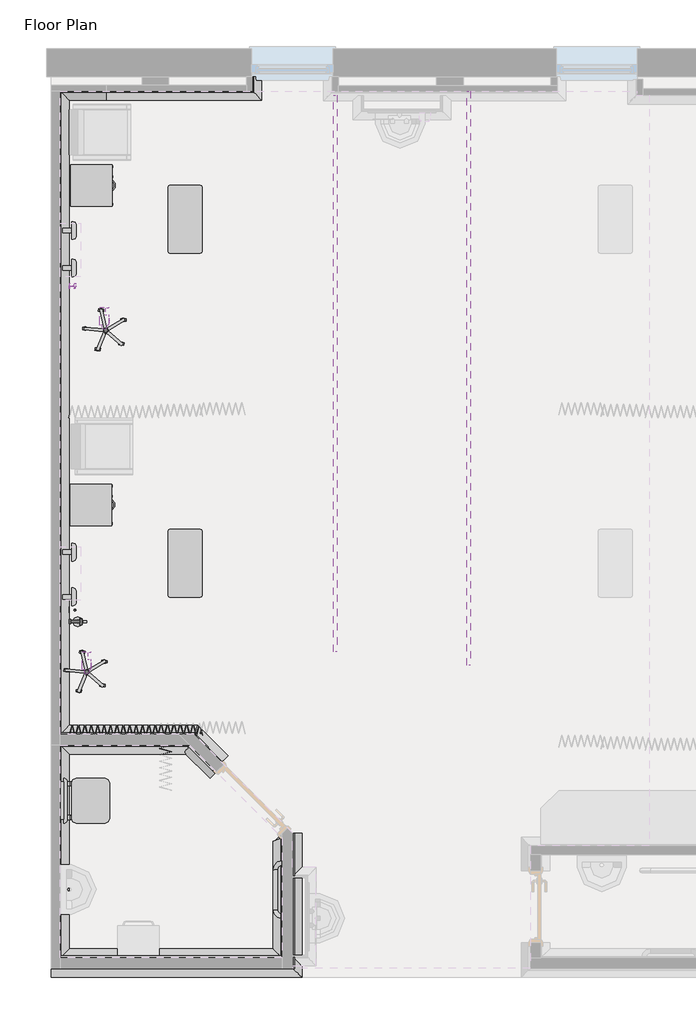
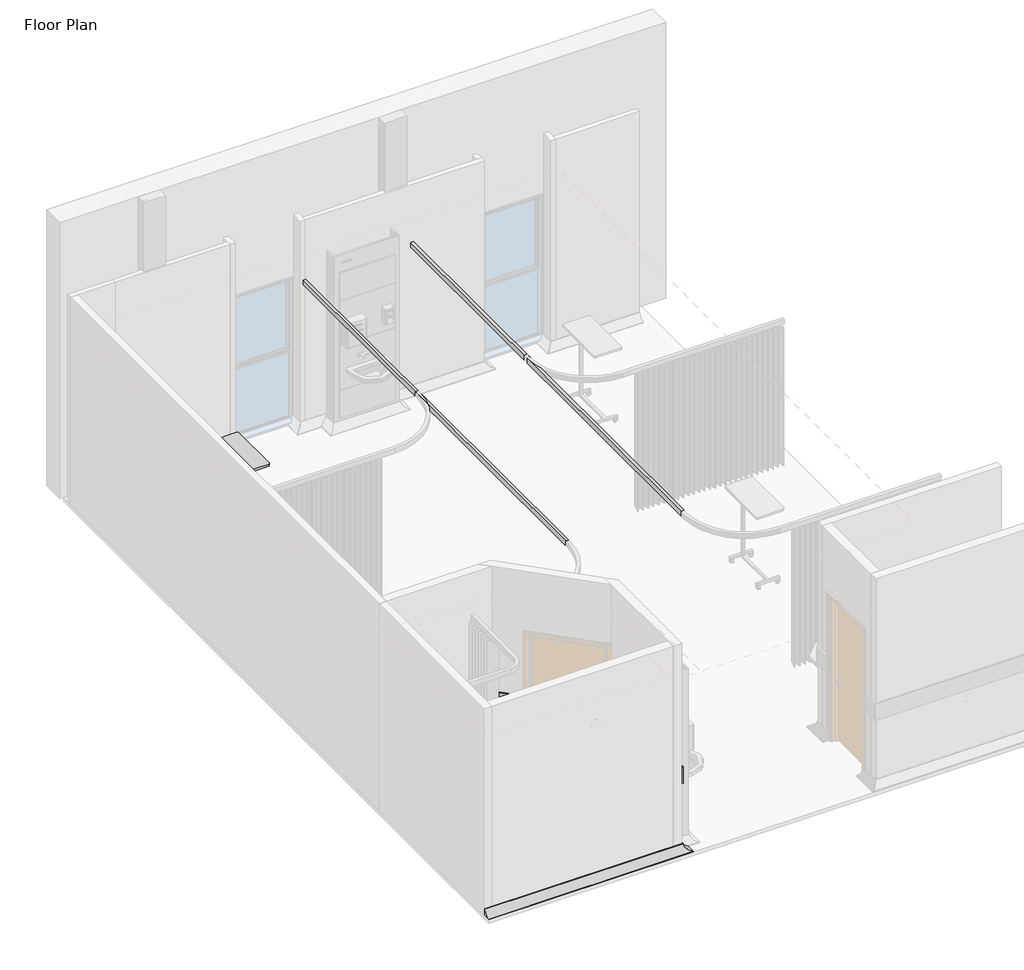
# One storey, part 2 of 3: 36 proxies.
"""IFC4 building model written with IfcOpenShell, lengths in millimetres."""

from ifc_helpers import new_model, si_unit, point, frame, frame_2d, origin, place, context, project, spatial, polyline, circle_curve, ellipse_curve, trimmed, segment, composite_curve, outline, extrude, transform, mapped, element, save
from ifc_brep_helpers import plane_surface, revolved_surface, advanced_brep
from components import generic_models_cb70edec, generic_models_7cb6bfe7, generic_models_b7986ebb, generic_models_e9c63149, generic_models_37f5f703, generic_models_4addcc0f, generic_models_2748bf89, generic_models_4dffa418, generic_models_d385bf97, type_1_5029713c, type_1_b87888fc

model = new_model("IFC4")

# Units and contexts
model_context = context("Model", 3, world=origin())
ifc_project = project(units=[si_unit("LENGTHUNIT", "METRE", prefix="MILLI")], contexts=[model_context])

# Site, building, storey
site = spatial("IfcSite", under=ifc_project)
building = spatial("IfcBuilding", under=site)
storey = spatial("IfcBuildingStorey", under=building, Name="Floor Plan", Elevation=0.0)

# Proxies
placement = place(None, origin())
element("IfcBuildingElementProxy", 1, Name="Wall Sweeps", at=placement, inside=storey, context=model_context, shape_type="AdvancedBrep", body=[
    advanced_brep(
    [(43998.7297081, -43.5704396, 0.0), (43998.7297081, -143.5704396, 0.0), (43998.7297081, -143.5704396, 10.0), (43998.7297081, -53.5704396, 100.0), (43998.7297081, -43.5704396, 100.0), (45637.9797081, -43.5704396, 0.0), (45637.9797081, -43.5704396, 100.0), (45647.9797081, -53.5704396, 100.0), (45737.9797081, -143.5704396, 10.0), (45737.9797081, -143.5704396, 0.0), (45569.4797081, -43.5704396, 0.0)],
    [
        (0, 1),
        (1, 2),
        (2, 3, circle_curve(frame((43998.7297081, -143.5704396, 100.0), z_axis=(1.0, 0.0, 0.0), x_axis=(0.0, -1.0, 0.0)), 90.0)),
        (3, 4),
        (4, 0),
        (5, 6),
        (6, 7),
        (7, 8, ellipse_curve(frame((45737.9797081, -143.5704396, 100.0), z_axis=(-0.7071067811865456, -0.7071067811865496, 0.0), x_axis=(0.7071067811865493, -0.7071067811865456, 0.0)), 127.2792206, 90.0)),
        (8, 9),
        (9, 5),
        (0, 10),
        (10, 5),
        (9, 1),
        (8, 2),
        (7, 3),
        (6, 4),
    ],
    [
        plane_surface(frame((43998.7297081, 261.2295604, 0.0), z_axis=(-1.0, 0.0, 0.0), x_axis=(0.0, 0.0, 1.0))),
        plane_surface(frame((45637.9797081, -43.5704396, -304.8), z_axis=(0.7071067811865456, 0.7071067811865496, 0.0), x_axis=(-0.7071067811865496, 0.7071067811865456, 0.0))),
        plane_surface(frame((43998.7297081, -43.5704396, 0.0), z_axis=(0.0, 0.0, -1.0), x_axis=(1.0, 0.0, 0.0))),
        plane_surface(frame((43998.7297081, -143.5704396, 0.0), z_axis=(0.0, -1.0, 0.0), x_axis=(1.0, 0.0, 0.0))),
        revolved_surface(polyline([(45827.979708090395, -233.5704396, 100.0), (43998.7297081, -233.5704396, 100.0)]), (43998.7297081, -143.5704396, 100.0), (1.0, 0.0, 0.0)),
        plane_surface(frame((43998.7297081, -53.5704396, 100.0), z_axis=(0.0, 0.0, 1.0), x_axis=(1.0, 0.0, 0.0))),
        plane_surface(frame((43998.7297081, -43.5704396, 100.0), z_axis=(0.0, 1.0, 0.0), x_axis=(1.0, 0.0, 0.0))),
    ],
    [
        (0, [[1, 2, 3, 4, 5]]),
        (1, [[6, 7, 8, 9, 10]]),
        (2, [[-1, 11, 12, -10, 13]]),
        (3, [[-2, -13, -9, 14]]),
        (4, [[-3, -14, -8, 15]]),
        (5, [[-4, -15, -7, 16]]),
        (6, [[-5, -16, -6, -12, -11]]),
    ],
),
])
element("IfcBuildingElementProxy", 2, Name="Wall Sweeps", at=placement, inside=storey, context=model_context, shape_type="AdvancedBrep", body=[
    advanced_brep(
    [(45637.9797081, 118.6795604, 0.0), (45637.9797081, 118.6795604, 100.0), (45647.9797081, 118.6795604, 100.0), (45737.9797081, 118.6795604, 10.0), (45737.9797081, 118.6795604, 0.0), (45637.9797081, -43.5704396, 0.0), (45737.9797081, -143.5704396, 0.0), (45737.9797081, -143.5704396, 10.0), (45647.9797081, -53.5704396, 100.0), (45637.9797081, -43.5704396, 100.0)],
    [
        (0, 1),
        (1, 2),
        (2, 3, circle_curve(frame((45737.9797081, 118.6795604, 100.0), z_axis=(0.0, -1.0, 0.0), x_axis=(1.0, 0.0, 0.0)), 90.0)),
        (3, 4),
        (4, 0),
        (5, 6),
        (6, 7),
        (7, 8, ellipse_curve(frame((45737.9797081, -143.5704396, 100.0), z_axis=(0.7071067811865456, 0.7071067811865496, 0.0), x_axis=(0.7071067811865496, -0.7071067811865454, 0.0)), 127.2792206, 90.0)),
        (8, 9),
        (9, 5),
        (4, 6),
        (5, 0),
        (3, 7),
        (2, 8),
        (1, 9),
    ],
    [
        plane_surface(frame((45537.4809518, 118.6795604, 0.0), z_axis=(0.0, 1.0, 0.0), x_axis=(0.0, 0.0, -1.0))),
        plane_surface(frame((45637.9797081, -43.5704396, 304.8), z_axis=(-0.7071067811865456, -0.7071067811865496, 0.0), x_axis=(-0.7071067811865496, 0.7071067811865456, 0.0))),
        plane_surface(frame((45737.9797081, 118.6795604, 0.0), z_axis=(0.0, 0.0, -1.0), x_axis=(0.0, -1.0, 0.0))),
        plane_surface(frame((45737.9797081, 118.6795604, 10.0), z_axis=(1.0, 0.0, 0.0), x_axis=(0.0, -1.0, 0.0))),
        revolved_surface(polyline([(45827.9797081, -233.57043959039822, 100.0), (45827.9797081, 118.6795604, 100.0)]), (45737.9797081, 118.6795604, 100.0), (0.0, -1.0, 0.0)),
        plane_surface(frame((45637.9797081, 118.6795604, 100.0), z_axis=(0.0, 0.0, 1.0), x_axis=(0.0, -1.0, 0.0))),
        plane_surface(frame((45637.9797081, 118.6795604, 0.0), z_axis=(-1.0, 0.0, 0.0), x_axis=(0.0, -1.0, 0.0))),
    ],
    [
        (0, [[1, 2, 3, 4, 5]]),
        (1, [[6, 7, 8, 9, 10]]),
        (2, [[-5, 11, -6, 12]]),
        (3, [[-4, 13, -7, -11]]),
        (4, [[-3, 14, -8, -13]]),
        (5, [[-2, 15, -9, -14]]),
        (6, [[-1, -12, -10, -15]]),
    ],
),
])
element("IfcBuildingElementProxy", 3, Name="Wall Sweeps", at=placement, inside=storey, context=model_context, shape_type="AdvancedBrep", body=[
    advanced_brep(
    [(43998.7297081, -43.5704396, 0.0), (43998.7297081, -43.5704396, 100.0), (43998.7297081, -53.5704396, 100.0), (43998.7297081, -143.5704396, 10.0), (43998.7297081, -143.5704396, 0.0), (43483.6832264, -43.5704396, 0.0), (43583.6832264, -143.5704396, 0.0), (43583.6832264, -143.5704396, 10.0), (43493.6832264, -53.5704396, 100.0), (43483.6832264, -43.5704396, 100.0)],
    [
        (0, 1),
        (1, 2),
        (2, 3, circle_curve(frame((43998.7297081, -143.5704396, 100.0), z_axis=(-1.0, 0.0, 0.0), x_axis=(0.0, -1.0, 0.0)), 90.0)),
        (3, 4),
        (4, 0),
        (5, 6),
        (6, 7),
        (7, 8, ellipse_curve(frame((43583.6832264, -143.5704396, 100.0), z_axis=(0.7071067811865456, 0.7071067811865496, 0.0), x_axis=(-0.7071067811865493, 0.7071067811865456, 0.0)), 127.2792206, 90.0)),
        (8, 9),
        (9, 5),
        (4, 6),
        (5, 0),
        (3, 7),
        (2, 8),
        (1, 9),
    ],
    [
        plane_surface(frame((43998.7297081, -348.3704396, 0.0), z_axis=(1.0, 0.0, 0.0), x_axis=(0.0, 0.0, 1.0))),
        plane_surface(frame((43483.6832264, -43.5704396, -304.8), z_axis=(-0.7071067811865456, -0.7071067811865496, 0.0), x_axis=(0.7071067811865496, -0.7071067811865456, 0.0))),
        plane_surface(frame((43998.7297081, -143.5704396, 0.0), z_axis=(0.0, 0.0, -1.0), x_axis=(-1.0, 0.0, 0.0))),
        plane_surface(frame((43998.7297081, -143.5704396, 10.0), z_axis=(0.0, -1.0, 0.0), x_axis=(-1.0, 0.0, 0.0))),
        revolved_surface(polyline([(43493.6832264, -233.5704396, 100.0), (43998.7297081, -233.5704396, 100.0)]), (43998.7297081, -143.5704396, 100.0), (-1.0, 0.0, 0.0)),
        plane_surface(frame((43998.7297081, -43.5704396, 100.0), z_axis=(0.0, 0.0, 1.0), x_axis=(-1.0, 0.0, 0.0))),
        plane_surface(frame((43998.7297081, -43.5704396, 0.0), z_axis=(0.0, 1.0, 0.0), x_axis=(-1.0, 0.0, 0.0))),
    ],
    [
        (0, [[1, 2, 3, 4, 5]]),
        (1, [[6, 7, 8, 9, 10]]),
        (2, [[-5, 11, -6, 12]]),
        (3, [[-4, 13, -7, -11]]),
        (4, [[-3, 14, -8, -13]]),
        (5, [[-2, 15, -9, -14]]),
        (6, [[-1, -12, -10, -15]]),
    ],
),
])
element("IfcBuildingElementProxy", 4, Name="Wall Sweeps", at=placement, inside=storey, context=model_context, shape_type="AdvancedBrep", body=[
    advanced_brep(
    [(43483.6832264, -43.5704396, 0.0), (43483.6832264, -43.5704396, 100.0), (43493.6832264, -53.5704396, 100.0), (43583.6832264, -143.5704396, 10.0), (43583.6832264, -143.5704396, 0.0), (43483.6832264, -7243.5704396, 0.0), (43583.6832264, -7143.5704396, 0.0), (43583.6832264, -7143.5704396, 10.0), (43493.6832264, -7233.5704396, 100.0), (43483.6832264, -7243.5704396, 100.0)],
    [
        (0, 1),
        (1, 2),
        (2, 3, ellipse_curve(frame((43583.6832264, -143.5704396, 100.0), z_axis=(-0.7071067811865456, -0.7071067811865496, 0.0), x_axis=(0.7071067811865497, -0.7071067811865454, 0.0)), 127.2792206, 90.0)),
        (3, 4),
        (4, 0),
        (5, 6),
        (6, 7),
        (7, 8, ellipse_curve(frame((43583.6832264, -7143.5704396, 100.0), z_axis=(-0.707106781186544, 0.7071067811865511, 0.0), x_axis=(-0.7071067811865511, -0.7071067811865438, 0.0)), 127.2792206, 90.0)),
        (8, 9),
        (9, 5),
        (0, 5),
        (9, 1),
        (8, 2),
        (7, 3),
        (6, 4),
    ],
    [
        plane_surface(frame((43483.6832264, -43.5704396, -304.8), z_axis=(0.7071067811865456, 0.7071067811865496, 0.0), x_axis=(0.7071067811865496, -0.7071067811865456, 0.0))),
        plane_surface(frame((43483.6832264, -7243.5704396, -304.8), z_axis=(0.707106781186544, -0.7071067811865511, 0.0), x_axis=(0.7071067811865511, 0.707106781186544, 0.0))),
        plane_surface(frame((43483.6832264, -43.5704396, 0.0), z_axis=(-1.0, 0.0, 0.0), x_axis=(0.0, -1.0, 0.0))),
        plane_surface(frame((43483.6832264, -43.5704396, 100.0), z_axis=(0.0, 0.0, 1.0), x_axis=(0.0, -1.0, 0.0))),
        revolved_surface(polyline([(43673.6832264, -7233.5704396, 100.0), (43673.6832264, -53.5704396, 100.0)]), (43583.6832264, -43.5704396, 100.0), (0.0, -1.0, 0.0)),
        plane_surface(frame((43583.6832264, -143.5704396, 10.0), z_axis=(1.0, 0.0, 0.0), x_axis=(0.0, -1.0, 0.0))),
        plane_surface(frame((43583.6832264, -143.5704396, 0.0), z_axis=(0.0, 0.0, -1.0), x_axis=(0.0, -1.0, 0.0))),
    ],
    [
        (0, [[1, 2, 3, 4, 5]]),
        (1, [[6, 7, 8, 9, 10]]),
        (2, [[-1, 11, -10, 12]]),
        (3, [[-2, -12, -9, 13]]),
        (4, [[-3, -13, -8, 14]]),
        (5, [[-4, -14, -7, 15]]),
        (6, [[-5, -15, -6, -11]]),
    ],
),
])
element("IfcBuildingElementProxy", 5, Name="Wall Sweeps", at=placement, inside=storey, context=model_context, shape_type="AdvancedBrep", body=[
    advanced_brep(
    [(43483.6832264, -7243.5704396, 0.0), (43483.6832264, -7243.5704396, 100.0), (43493.6832264, -7233.5704396, 100.0), (43583.6832264, -7143.5704396, 10.0), (43583.6832264, -7143.5704396, 0.0), (44981.0967003, -7243.5704396, 0.0), (45022.5180565, -7143.5704396, 0.0), (45022.5180565, -7143.5704396, 10.0), (44985.2388359, -7233.5704396, 100.0), (44981.0967003, -7243.5704396, 100.0), (44809.2697525, -7243.5704396, 0.0)],
    [
        (0, 1),
        (1, 2),
        (2, 3, ellipse_curve(frame((43583.6832264, -7143.5704396, 100.0), z_axis=(0.707106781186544, -0.7071067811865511, 0.0), x_axis=(0.7071067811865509, 0.707106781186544, 0.0)), 127.2792206, 90.0)),
        (3, 4),
        (4, 0),
        (5, 6),
        (6, 7),
        (7, 8, ellipse_curve(frame((45022.5180565, -7143.5704396, 100.0), z_axis=(-0.9238795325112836, 0.3826834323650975, 0.0), x_axis=(0.38268343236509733, 0.9238795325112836, 0.0)), 97.415298, 90.0)),
        (8, 9),
        (9, 5),
        (0, 10),
        (10, 5),
        (9, 1),
        (8, 2),
        (7, 3),
        (6, 4),
    ],
    [
        plane_surface(frame((43483.6832264, -7243.5704396, -304.8), z_axis=(-0.707106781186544, 0.7071067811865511, 0.0), x_axis=(0.7071067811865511, 0.707106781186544, 0.0))),
        plane_surface(frame((44981.0967003, -7243.5704396, 304.8), z_axis=(0.9238795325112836, -0.3826834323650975, 0.0), x_axis=(-0.3826834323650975, -0.9238795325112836, 0.0))),
        plane_surface(frame((43483.6832264, -7243.5704396, 0.0), z_axis=(0.0, -1.0, 0.0), x_axis=(1.0, 0.0, 0.0))),
        plane_surface(frame((43483.6832264, -7243.5704396, 100.0), z_axis=(0.0, 0.0, 1.0), x_axis=(1.0, 0.0, 0.0))),
        revolved_surface(polyline([(45059.797277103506, -7053.5704396, 100.0), (43493.6832264, -7053.5704396, 100.0)]), (43483.6832264, -7143.5704396, 100.0), (1.0, 0.0, 0.0)),
        plane_surface(frame((43583.6832264, -7143.5704396, 10.0), z_axis=(0.0, 1.0, 0.0), x_axis=(1.0, 0.0, 0.0))),
        plane_surface(frame((43583.6832264, -7143.5704396, 0.0), z_axis=(0.0, 0.0, -1.0), x_axis=(1.0, 0.0, 0.0))),
    ],
    [
        (0, [[1, 2, 3, 4, 5]]),
        (1, [[6, 7, 8, 9, 10]]),
        (2, [[-1, 11, 12, -10, 13]]),
        (3, [[-2, -13, -9, 14]]),
        (4, [[-3, -14, -8, 15]]),
        (5, [[-4, -15, -7, 16]]),
        (6, [[-5, -16, -6, -12, -11]]),
    ],
),
])
element("IfcBuildingElementProxy", 6, Name="Wall Sweeps", at=placement, inside=storey, context=model_context, shape_type="AdvancedBrep", body=[
    advanced_brep(
    [(43483.6832264, -7365.0704396, 0.0), (43583.6832264, -7465.0704396, 0.0), (43583.6832264, -7465.0704396, 10.0), (43493.6832264, -7375.0704396, 100.0), (43483.6832264, -7365.0704396, 100.0), (44930.7697525, -7365.0704396, 0.0), (44930.7697525, -7365.0704396, 100.0), (44926.6276169, -7375.0704396, 100.0), (44889.3483962, -7465.0704396, 10.0), (44889.3483962, -7465.0704396, 0.0)],
    [
        (0, 1),
        (1, 2),
        (2, 3, ellipse_curve(frame((43583.6832264, -7465.0704396, 100.0), z_axis=(0.7071067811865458, 0.7071067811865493, 0.0), x_axis=(0.7071067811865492, -0.7071067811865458, 0.0)), 127.2792206, 90.0)),
        (3, 4),
        (4, 0),
        (5, 6),
        (6, 7),
        (7, 8, ellipse_curve(frame((44889.3483962, -7465.0704396, 100.0), z_axis=(-0.9238795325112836, 0.3826834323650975, 0.0), x_axis=(0.38268343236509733, 0.9238795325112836, 0.0)), 97.415298, 90.0)),
        (8, 9),
        (9, 5),
        (0, 5),
        (9, 1),
        (8, 2),
        (7, 3),
        (6, 4),
    ],
    [
        plane_surface(frame((43483.6832264, -7365.0704396, 304.8), z_axis=(-0.7071067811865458, -0.7071067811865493, 0.0), x_axis=(0.7071067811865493, -0.7071067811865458, 0.0))),
        plane_surface(frame((44930.7697525, -7365.0704396, 304.8), z_axis=(0.9238795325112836, -0.3826834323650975, 0.0), x_axis=(-0.3826834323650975, -0.9238795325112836, 0.0))),
        plane_surface(frame((43483.6832264, -7365.0704396, 0.0), z_axis=(0.0, 0.0, -1.0), x_axis=(1.0, 0.0, 0.0))),
        plane_surface(frame((43583.6832264, -7465.0704396, 0.0), z_axis=(0.0, -1.0, 0.0), x_axis=(1.0, 0.0, 0.0))),
        revolved_surface(polyline([(44926.6276169, -7555.0704396, 100.0), (43493.6832264, -7555.0704396, 100.0)]), (43483.6832264, -7465.0704396, 100.0), (1.0, 0.0, 0.0)),
        plane_surface(frame((43493.6832264, -7375.0704396, 100.0), z_axis=(0.0, 0.0, 1.0), x_axis=(1.0, 0.0, 0.0))),
        plane_surface(frame((43483.6832264, -7365.0704396, 100.0), z_axis=(0.0, 1.0, 0.0), x_axis=(1.0, 0.0, 0.0))),
    ],
    [
        (0, [[1, 2, 3, 4, 5]]),
        (1, [[6, 7, 8, 9, 10]]),
        (2, [[-1, 11, -10, 12]]),
        (3, [[-2, -12, -9, 13]]),
        (4, [[-3, -13, -8, 14]]),
        (5, [[-4, -14, -7, 15]]),
        (6, [[-5, -15, -6, -11]]),
    ],
),
])
element("IfcBuildingElementProxy", 7, Name="Wall Sweeps", at=placement, inside=storey, context=model_context, shape_type="SweptSolid", body=[
    extrude(outline(polyline([(43483.6832264, -7243.5704396), (43483.6832264, -7224.5704396), (44981.0967003, -7224.5704396), (44981.0967003, -7243.5704396), (43483.6832264, -7243.5704396)])), frame((0.0, 0.0, 965.0), z_axis=(0.0, 0.0, 1.0), x_axis=(1.0, 0.0, 0.0)), (0.0, 0.0, 1.0), 235.0),
])
element("IfcBuildingElementProxy", 8, Name="Wall Sweeps", at=placement, inside=storey, context=model_context, shape_type="AdvancedBrep", body=[
    advanced_brep(
    [(43483.6832264, -7365.0704396, 0.0), (43483.6832264, -7365.0704396, 100.0), (43493.6832264, -7375.0704396, 100.0), (43583.6832264, -7465.0704396, 10.0), (43583.6832264, -7465.0704396, 0.0), (43483.6832264, -9743.5704396, 0.0), (43583.6832264, -9643.5704396, 0.0), (43583.6832264, -9643.5704396, 10.0), (43493.6832264, -9733.5704396, 100.0), (43483.6832264, -9743.5704396, 100.0)],
    [
        (0, 1),
        (1, 2),
        (2, 3, ellipse_curve(frame((43583.6832264, -7465.0704396, 100.0), z_axis=(-0.7071067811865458, -0.7071067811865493, 0.0), x_axis=(0.7071067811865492, -0.7071067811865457, 0.0)), 127.2792206, 90.0)),
        (3, 4),
        (4, 0),
        (5, 6),
        (6, 7),
        (7, 8, ellipse_curve(frame((43583.6832264, -9643.5704396, 100.0), z_axis=(-0.707106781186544, 0.7071067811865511, 0.0), x_axis=(-0.7071067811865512, -0.7071067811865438, 0.0)), 127.2792206, 90.0)),
        (8, 9),
        (9, 5),
        (4, 6),
        (5, 0),
        (3, 7),
        (2, 8),
        (1, 9),
    ],
    [
        plane_surface(frame((43483.6832264, -7365.0704396, -304.8), z_axis=(0.7071067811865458, 0.7071067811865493, 0.0), x_axis=(0.7071067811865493, -0.7071067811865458, 0.0))),
        plane_surface(frame((43483.6832264, -9743.5704396, -304.8), z_axis=(0.707106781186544, -0.7071067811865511, 0.0), x_axis=(0.7071067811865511, 0.707106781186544, 0.0))),
        plane_surface(frame((43583.6832264, -7465.0704396, 0.0), z_axis=(0.0, 0.0, -1.0), x_axis=(0.0, -1.0, 0.0))),
        plane_surface(frame((43583.6832264, -7465.0704396, 10.0), z_axis=(1.0, 0.0, 0.0), x_axis=(0.0, -1.0, 0.0))),
        revolved_surface(polyline([(43673.6832264, -9733.5704396, 100.0), (43673.6832264, -7375.0704396, 100.0)]), (43583.6832264, -7365.0704396, 100.0), (0.0, -1.0, 0.0)),
        plane_surface(frame((43483.6832264, -7365.0704396, 100.0), z_axis=(0.0, 0.0, 1.0), x_axis=(0.0, -1.0, 0.0))),
        plane_surface(frame((43483.6832264, -7365.0704396, 0.0), z_axis=(-1.0, 0.0, 0.0), x_axis=(0.0, -1.0, 0.0))),
    ],
    [
        (0, [[1, 2, 3, 4, 5]]),
        (1, [[6, 7, 8, 9, 10]]),
        (2, [[-5, 11, -6, 12]]),
        (3, [[-4, 13, -7, -11]]),
        (4, [[-3, 14, -8, -13]]),
        (5, [[-2, 15, -9, -14]]),
        (6, [[-1, -12, -10, -15]]),
    ],
),
])
element("IfcBuildingElementProxy", 9, Name="Wall Sweeps", at=placement, inside=storey, context=model_context, shape_type="AdvancedBrep", body=[
    advanced_brep(
    [(46088.6832264, -8351.1569657, 0.0), (46088.6832264, -8351.1569657, 100.0), (46098.6832264, -8351.1569657, 100.0), (46188.6832264, -8351.1569657, 10.0), (46188.6832264, -8351.1569657, 0.0), (46088.6832264, -9865.0704396, 0.0), (46188.6832264, -9965.0704396, 0.0), (46188.6832264, -9965.0704396, 10.0), (46098.6832264, -9875.0704396, 100.0), (46088.6832264, -9865.0704396, 100.0)],
    [
        (0, 1),
        (1, 2),
        (2, 3, circle_curve(frame((46188.6832264, -8351.1569657, 100.0), z_axis=(0.0, -1.0, 0.0), x_axis=(1.0, 0.0, 0.0)), 90.0)),
        (3, 4),
        (4, 0),
        (5, 6),
        (6, 7),
        (7, 8, ellipse_curve(frame((46188.6832264, -9965.0704396, 100.0), z_axis=(0.7071067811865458, 0.7071067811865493, 0.0), x_axis=(0.7071067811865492, -0.7071067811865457, 0.0)), 127.2792206, 90.0)),
        (8, 9),
        (9, 5),
        (0, 5),
        (9, 1),
        (8, 2),
        (7, 3),
        (6, 4),
    ],
    [
        plane_surface(frame((45988.1844702, -8351.1569657, 0.0), z_axis=(0.0, 1.0, 0.0), x_axis=(0.0, 0.0, -1.0))),
        plane_surface(frame((46088.6832264, -9865.0704396, 304.8), z_axis=(-0.7071067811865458, -0.7071067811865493, 0.0), x_axis=(-0.7071067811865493, 0.7071067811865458, 0.0))),
        plane_surface(frame((46088.6832264, -8351.1569657, 0.0), z_axis=(-1.0, 0.0, 0.0), x_axis=(0.0, -1.0, 0.0))),
        plane_surface(frame((46088.6832264, -8351.1569657, 100.0), z_axis=(0.0, 0.0, 1.0), x_axis=(0.0, -1.0, 0.0))),
        revolved_surface(polyline([(46278.6832264, -10055.070439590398, 100.0), (46278.6832264, -8351.1569657, 100.0)]), (46188.6832264, -8351.1569657, 100.0), (0.0, -1.0, 0.0)),
        plane_surface(frame((46188.6832264, -8351.1569657, 10.0), z_axis=(1.0, 0.0, 0.0), x_axis=(0.0, -1.0, 0.0))),
        plane_surface(frame((46188.6832264, -8351.1569657, 0.0), z_axis=(0.0, 0.0, -1.0), x_axis=(0.0, -1.0, 0.0))),
    ],
    [
        (0, [[1, 2, 3, 4, 5]]),
        (1, [[6, 7, 8, 9, 10]]),
        (2, [[-1, 11, -10, 12]]),
        (3, [[-2, -12, -9, 13]]),
        (4, [[-3, -13, -8, 14]]),
        (5, [[-4, -14, -7, 15]]),
        (6, [[-5, -15, -6, -11]]),
    ],
),
])
element("IfcBuildingElementProxy", 10, Name="Wall Sweeps", at=placement, inside=storey, context=model_context, shape_type="AdvancedBrep", body=[
    advanced_brep(
    [(45967.1832264, -8401.4839135, 0.0), (45867.1832264, -8442.9052697, 0.0), (45867.1832264, -8442.9052697, 10.0), (45957.1832264, -8405.6260491, 100.0), (45967.1832264, -8401.4839135, 100.0), (45967.1832264, -9743.5704396, 0.0), (45967.1832264, -9743.5704396, 100.0), (45957.1832264, -9733.5704396, 100.0), (45867.1832264, -9643.5704396, 10.0), (45867.1832264, -9643.5704396, 0.0)],
    [
        (0, 1),
        (1, 2),
        (2, 3, ellipse_curve(frame((45867.1832264, -8442.9052697, 100.0), z_axis=(0.3826834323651, -0.9238795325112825, 0.0), x_axis=(-0.9238795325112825, -0.38268343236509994, 0.0)), 97.415298, 90.0)),
        (3, 4),
        (4, 0),
        (5, 6),
        (6, 7),
        (7, 8, ellipse_curve(frame((45867.1832264, -9643.5704396, 100.0), z_axis=(0.7071067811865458, 0.7071067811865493, 0.0), x_axis=(0.7071067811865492, -0.7071067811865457, 0.0)), 127.2792206, 90.0)),
        (8, 9),
        (9, 5),
        (0, 5),
        (9, 1),
        (8, 2),
        (7, 3),
        (6, 4),
    ],
    [
        plane_surface(frame((45967.1832264, -8401.4839135, 304.8), z_axis=(-0.3826834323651, 0.9238795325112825, 0.0), x_axis=(-0.9238795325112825, -0.3826834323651, 0.0))),
        plane_surface(frame((45967.1832264, -9743.5704396, 304.8), z_axis=(-0.7071067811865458, -0.7071067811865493, 0.0), x_axis=(-0.7071067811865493, 0.7071067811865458, 0.0))),
        plane_surface(frame((45967.1832264, -8401.4839135, 0.0), z_axis=(0.0, 0.0, -1.0), x_axis=(0.0, -1.0, 0.0))),
        plane_surface(frame((45867.1832264, -8442.9052697, 0.0), z_axis=(-1.0, 0.0, 0.0), x_axis=(0.0, -1.0, 0.0))),
        revolved_surface(polyline([(45777.1832264, -9733.5704396, 100.0), (45777.1832264, -8405.626049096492, 100.0)]), (45867.1832264, -8401.4839135, 100.0), (0.0, -1.0, 0.0)),
        plane_surface(frame((45957.1832264, -8405.6260491, 100.0), z_axis=(0.0, 0.0, 1.0), x_axis=(0.0, -1.0, 0.0))),
        plane_surface(frame((45967.1832264, -8401.4839135, 100.0), z_axis=(1.0, 0.0, 0.0), x_axis=(0.0, -1.0, 0.0))),
    ],
    [
        (0, [[1, 2, 3, 4, 5]]),
        (1, [[6, 7, 8, 9, 10]]),
        (2, [[-1, 11, -10, 12]]),
        (3, [[-2, -12, -9, 13]]),
        (4, [[-3, -13, -8, 14]]),
        (5, [[-4, -14, -7, 15]]),
        (6, [[-5, -15, -6, -11]]),
    ],
),
])
element("IfcBuildingElementProxy", 11, Name="Wall Sweeps", at=placement, inside=storey, context=model_context, shape_type="SweptSolid", body=[
    extrude(outline(polyline([(46088.6832264, -8351.1569657), (46107.6832264, -8351.1569657), (46107.6832264, -9865.0704396), (46088.6832264, -9865.0704396), (46088.6832264, -8351.1569657)])), frame((0.0, 0.0, 965.0), z_axis=(0.0, 0.0, 1.0), x_axis=(1.0, 0.0, 0.0)), (0.0, 0.0, 1.0), 235.0),
])
element("IfcBuildingElementProxy", 12, Name="Wall Sweeps", at=placement, inside=storey, context=model_context, shape_type="SweptSolid", body=[
    extrude(outline(composite_curve([segment(polyline([(0.0, 100.4987562), (0.0, 0.4987562), (-10.0, 0.4987562)]), True, "CONTINUOUS"), segment(trimmed(circle_curve(frame_2d((-100.0, 0.4987562)), 90.0), [point((-10.0, 0.4987562))], [point((-100.0, 90.4987562))], True, "CARTESIAN"), True, "CONTINUOUS"), segment(polyline([(-100.0, 90.4987562), (-100.0, 100.4987562), (0.0, 100.4987562)]), True, "CONTINUOUS")], self_intersect=False)), frame((45230.0169605, -7664.3176476, 100.4987562), z_axis=(-0.707106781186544, 0.7071067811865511, 0.0), x_axis=(0.7071067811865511, 0.707106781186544, 0.0)), (0.0, 0.0, 1.0), 423.19946),
    extrude(outline(composite_curve([segment(polyline([(0.0, 100.4987562), (0.0, 0.4987562), (-10.0, 0.4987562)]), True, "CONTINUOUS"), segment(trimmed(circle_curve(frame_2d((-100.0, 0.4987562)), 90.0), [point((-10.0, 0.4987562))], [point((-100.0, 90.4987562))], True, "CARTESIAN"), True, "CONTINUOUS"), segment(polyline([(-100.0, 90.4987562), (-100.0, 100.4987562), (0.0, 100.4987562)]), True, "CONTINUOUS")], self_intersect=False)), frame((45967.1832264, -8401.4839135, 100.4987562), z_axis=(-0.7071067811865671, 0.707106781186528, 0.0), x_axis=(0.707106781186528, 0.7071067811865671, 0.0)), (0.0, 0.0, 1.0), 32.510531),
])
element("IfcBuildingElementProxy", 13, Name="Wall Sweeps", at=placement, inside=storey, context=model_context, shape_type="AdvancedBrep", body=[
    advanced_brep(
    [(45291.181697, -7553.6554363, 0.0), (45361.8923752, -7482.9447582, 0.0), (45361.8923752, -7482.9447582, 10.0), (45298.2527648, -7546.5843685, 100.0), (45291.181697, -7553.6554363, 100.0), (44981.0967003, -7243.5704396, 0.0), (44981.0967003, -7243.5704396, 100.0), (44985.2388359, -7233.5704396, 100.0), (45022.5180565, -7143.5704396, 10.0), (45022.5180565, -7143.5704396, 0.0)],
    [
        (0, 1),
        (1, 2),
        (2, 3, circle_curve(frame((45361.8923752, -7482.9447582, 100.0), z_axis=(-0.7071067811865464, 0.7071067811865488, 0.0), x_axis=(0.7071067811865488, 0.7071067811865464, 0.0)), 90.0)),
        (3, 4),
        (4, 0),
        (5, 6),
        (6, 7),
        (7, 8, ellipse_curve(frame((45022.5180565, -7143.5704396, 100.0), z_axis=(0.9238795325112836, -0.3826834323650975, 0.0), x_axis=(0.38268343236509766, 0.9238795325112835, 0.0)), 97.415298, 90.0)),
        (8, 9),
        (9, 5),
        (0, 5),
        (9, 1),
        (8, 2),
        (7, 3),
        (6, 4),
    ],
    [
        plane_surface(frame((45291.181697, -7553.6554363, 100.4987562), z_axis=(0.7071067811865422, -0.7071067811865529, 0.0), x_axis=(0.7071067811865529, 0.7071067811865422, 0.0))),
        plane_surface(frame((44981.0967003, -7243.5704396, -304.8), z_axis=(-0.9238795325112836, 0.3826834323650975, 0.0), x_axis=(-0.3826834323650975, -0.9238795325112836, 0.0))),
        plane_surface(frame((45291.181697, -7553.6554363, 0.0), z_axis=(0.0, 0.0, -1.0), x_axis=(-0.7071067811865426, 0.7071067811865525, 0.0))),
        plane_surface(frame((45361.8923752, -7482.9447582, 0.0), z_axis=(0.707106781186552, 0.707106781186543, 0.0), x_axis=(-0.707106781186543, 0.707106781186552, 0.0))),
        revolved_surface(polyline([(45059.7972771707, -7053.570439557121, 100.0), (45425.53198550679, -7419.305147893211, 100.0)]), (45361.8923752, -7482.9447582, 100.0), (-0.7071067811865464, 0.7071067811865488, 0.0)),
        plane_surface(frame((45298.2527648, -7546.5843685, 100.0), z_axis=(0.0, 0.0, 1.0), x_axis=(-0.707106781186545, 0.70710678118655, 0.0))),
        plane_surface(frame((45291.181697, -7553.6554363, 100.0), z_axis=(-0.7071067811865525, -0.7071067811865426, 0.0), x_axis=(-0.7071067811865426, 0.7071067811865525, 0.0))),
    ],
    [
        (0, [[1, 2, 3, 4, 5]]),
        (1, [[6, 7, 8, 9, 10]]),
        (2, [[-1, 11, -10, 12]]),
        (3, [[-2, -12, -9, 13]]),
        (4, [[-3, -13, -8, 14]]),
        (5, [[-4, -14, -7, 15]]),
        (6, [[-5, -15, -6, -11]]),
    ],
),
])
element("IfcBuildingElementProxy", 14, Name="Wall Sweeps", at=placement, inside=storey, context=model_context, shape_type="SweptSolid", body=[
    extrude(outline(polyline([(45230.0169605, -7664.3176476), (45216.5819316, -7677.7526764), (44917.3347236, -7378.5054684), (44930.7697525, -7365.0704396), (45230.0169605, -7664.3176476)])), frame((0.0, 0.0, 965.0), z_axis=(0.0, 0.0, 1.0), x_axis=(1.0, 0.0, 0.0)), (0.0, 0.0, 1.0), 235.0),
    extrude(outline(polyline([(45967.1832264, -8401.4839135), (45953.7481976, -8414.9189423), (45930.7597806, -8391.9305254), (45944.1948095, -8378.4954966), (45967.1832264, -8401.4839135)])), frame((0.0, 0.0, 965.0), z_axis=(0.0, 0.0, 1.0), x_axis=(1.0, 0.0, 0.0)), (0.0, 0.0, 1.0), 235.0),
])
element("IfcBuildingElementProxy", 15, Name="Wall Sweeps", at=placement, inside=storey, context=model_context, shape_type="AdvancedBrep", body=[
    advanced_brep(
    [(43483.6832264, -9743.5704396, 0.0), (43483.6832264, -9743.5704396, 100.0), (43493.6832264, -9733.5704396, 100.0), (43583.6832264, -9643.5704396, 10.0), (43583.6832264, -9643.5704396, 0.0), (45967.1832264, -9743.5704396, 0.0), (45867.1832264, -9643.5704396, 0.0), (45867.1832264, -9643.5704396, 10.0), (45957.1832264, -9733.5704396, 100.0), (45967.1832264, -9743.5704396, 100.0)],
    [
        (0, 1),
        (1, 2),
        (2, 3, ellipse_curve(frame((43583.6832264, -9643.5704396, 100.0), z_axis=(0.707106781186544, -0.7071067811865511, 0.0), x_axis=(0.7071067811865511, 0.707106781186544, 0.0)), 127.2792206, 90.0)),
        (3, 4),
        (4, 0),
        (5, 6),
        (6, 7),
        (7, 8, ellipse_curve(frame((45867.1832264, -9643.5704396, 100.0), z_axis=(-0.7071067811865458, -0.7071067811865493, 0.0), x_axis=(0.7071067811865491, -0.7071067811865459, 0.0)), 127.2792206, 90.0)),
        (8, 9),
        (9, 5),
        (0, 5),
        (9, 1),
        (8, 2),
        (7, 3),
        (6, 4),
    ],
    [
        plane_surface(frame((43483.6832264, -9743.5704396, -304.8), z_axis=(-0.707106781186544, 0.7071067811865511, 0.0), x_axis=(0.7071067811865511, 0.707106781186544, 0.0))),
        plane_surface(frame((45967.1832264, -9743.5704396, -304.8), z_axis=(0.7071067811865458, 0.7071067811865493, 0.0), x_axis=(-0.7071067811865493, 0.7071067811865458, 0.0))),
        plane_surface(frame((43483.6832264, -9743.5704396, 0.0), z_axis=(0.0, -1.0, 0.0), x_axis=(1.0, 0.0, 0.0))),
        plane_surface(frame((43483.6832264, -9743.5704396, 100.0), z_axis=(0.0, 0.0, 1.0), x_axis=(1.0, 0.0, 0.0))),
        revolved_surface(polyline([(45957.1832264, -9553.5704396, 100.0), (43493.6832264, -9553.5704396, 100.0)]), (43483.6832264, -9643.5704396, 100.0), (1.0, 0.0, 0.0)),
        plane_surface(frame((43583.6832264, -9643.5704396, 10.0), z_axis=(0.0, 1.0, 0.0), x_axis=(1.0, 0.0, 0.0))),
        plane_surface(frame((43583.6832264, -9643.5704396, 0.0), z_axis=(0.0, 0.0, -1.0), x_axis=(1.0, 0.0, 0.0))),
    ],
    [
        (0, [[1, 2, 3, 4, 5]]),
        (1, [[6, 7, 8, 9, 10]]),
        (2, [[-1, 11, -10, 12]]),
        (3, [[-2, -12, -9, 13]]),
        (4, [[-3, -13, -8, 14]]),
        (5, [[-4, -14, -7, 15]]),
        (6, [[-5, -15, -6, -11]]),
    ],
),
])
element("IfcBuildingElementProxy", 16, Name="Wall Sweeps", at=placement, inside=storey, context=model_context, shape_type="AdvancedBrep", body=[
    advanced_brep(
    [(43383.6832264, -9865.0704396, 0.0), (43383.6832264, -9965.0704396, 0.0), (43383.6832264, -9965.0704396, 10.0), (43383.6832264, -9875.0704396, 100.0), (43383.6832264, -9865.0704396, 100.0), (46088.6832264, -9865.0704396, 0.0), (46088.6832264, -9865.0704396, 100.0), (46098.6832264, -9875.0704396, 100.0), (46188.6832264, -9965.0704396, 10.0), (46188.6832264, -9965.0704396, 0.0), (43483.6832264, -9865.0704396, 0.0), (45967.1832264, -9865.0704396, 0.0)],
    [
        (0, 1),
        (1, 2),
        (2, 3, circle_curve(frame((43383.6832264, -9965.0704396, 100.0), z_axis=(1.0, 0.0, 0.0), x_axis=(0.0, -1.0, 0.0)), 90.0)),
        (3, 4),
        (4, 0),
        (5, 6),
        (6, 7),
        (7, 8, ellipse_curve(frame((46188.6832264, -9965.0704396, 100.0), z_axis=(-0.7071067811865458, -0.7071067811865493, 0.0), x_axis=(0.7071067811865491, -0.7071067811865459, 0.0)), 127.2792206, 90.0)),
        (8, 9),
        (9, 5),
        (0, 10),
        (10, 11),
        (11, 5),
        (9, 1),
        (8, 2),
        (7, 3),
        (6, 4),
    ],
    [
        plane_surface(frame((43383.6832264, -9865.0704396, -100.4987562), z_axis=(-1.0, 0.0, 0.0), x_axis=(0.0, 1.0, 0.0))),
        plane_surface(frame((46088.6832264, -9865.0704396, -304.8), z_axis=(0.7071067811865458, 0.7071067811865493, 0.0), x_axis=(-0.7071067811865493, 0.7071067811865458, 0.0))),
        plane_surface(frame((43383.6832264, -9865.0704396, 0.0), z_axis=(0.0, 0.0, -1.0), x_axis=(1.0, 0.0, 0.0))),
        plane_surface(frame((43383.6832264, -9965.0704396, 0.0), z_axis=(0.0, -1.0, 0.0), x_axis=(1.0, 0.0, 0.0))),
        revolved_surface(polyline([(46278.68322639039, -10055.0704396, 100.0), (43383.6832264, -10055.0704396, 100.0)]), (43383.6832264, -9965.0704396, 100.0), (1.0, 0.0, 0.0)),
        plane_surface(frame((43383.6832264, -9875.0704396, 100.0), z_axis=(0.0, 0.0, 1.0), x_axis=(1.0, 0.0, 0.0))),
        plane_surface(frame((43383.6832264, -9865.0704396, 100.0), z_axis=(0.0, 1.0, 0.0), x_axis=(1.0, 0.0, 0.0))),
    ],
    [
        (0, [[1, 2, 3, 4, 5]]),
        (1, [[6, 7, 8, 9, 10]]),
        (2, [[-1, 11, 12, 13, -10, 14]]),
        (3, [[-2, -14, -9, 15]]),
        (4, [[-3, -15, -8, 16]]),
        (5, [[-4, -16, -7, 17]]),
        (6, [[-5, -17, -6, -13, -12, -11]]),
    ],
),
])
element("IfcBuildingElementProxy", 17, Name="Wall Sweeps", at=placement, inside=storey, context=model_context, shape_type="SweptSolid", body=[
    extrude(outline(polyline([(43483.6832264, -9743.5704396), (43483.6832264, -9724.5704396), (45967.1832264, -9724.5704396), (45967.1832264, -9743.5704396), (43483.6832264, -9743.5704396)])), frame((0.0, 0.0, 965.0), z_axis=(0.0, 0.0, 1.0), x_axis=(1.0, 0.0, 0.0)), (0.0, 0.0, 1.0), 235.0),
])
generic_models_shape = generic_models_cb70edec(model_context)
element("IfcBuildingElementProxy", 18, Name="BIMHealth-IV_Pump-LOD2A-v1 : BIMHealth-IV_Pump-LOD2A-v1", ObjectType="BIMHealth-IV_Pump-LOD2A-v1 : BIMHealth-IV_Pump-LOD2A-v1", at=placement, inside=storey, context=model_context, shape_type="MappedRepresentation", body=[
    mapped(generic_models_shape, transform((43923.6832264, -2664.7816957, 0.0), x_axis=(0.0, 1.0, 0.0), y_axis=(-1.0, 0.0, 0.0), z_axis=(0.0, 0.0, 1.0))),
])
element("IfcBuildingElementProxy", 19, Name="BIMHealth-IV_Pump-LOD2A-v1 : BIMHealth-IV_Pump-LOD2A-v1", ObjectType="BIMHealth-IV_Pump-LOD2A-v1 : BIMHealth-IV_Pump-LOD2A-v1", at=placement, inside=storey, context=model_context, shape_type="MappedRepresentation", body=[
    mapped(generic_models_shape, transform((43725.9685178, -6522.8420776, 0.0), x_axis=(0.0, 1.0, 0.0), y_axis=(-1.0, 0.0, 0.0), z_axis=(0.0, 0.0, 1.0))),
])
generic_models_2_shape = generic_models_7cb6bfe7(model_context)
element("IfcBuildingElementProxy", 20, Name="BIMHealth-Table_Overbed-LOD2A-v1 : BIMHealth-Table_Overbed-LOD2A-v1", ObjectType="BIMHealth-Table_Overbed-LOD2A-v1 : BIMHealth-Table_Overbed-LOD2A-v1", at=placement, inside=storey, context=model_context, shape_type="MappedRepresentation", body=[
    mapped(generic_models_2_shape, transform((44689.1962512, -1096.5704396, 0.0), x_axis=(0.0, -1.0, 0.0), y_axis=(1.0, 0.0, 0.0), z_axis=(0.0, 0.0, 1.0))),
])
element("IfcBuildingElementProxy", 21, Name="BIMHealth-Table_Overbed-LOD2A-v1 : BIMHealth-Table_Overbed-LOD2A-v1", ObjectType="BIMHealth-Table_Overbed-LOD2A-v1 : BIMHealth-Table_Overbed-LOD2A-v1", at=placement, inside=storey, context=model_context, shape_type="MappedRepresentation", body=[
    mapped(generic_models_2_shape, transform((44689.1962512, -4946.5704396, 0.0), x_axis=(0.0, -1.0, 0.0), y_axis=(1.0, 0.0, 0.0), z_axis=(0.0, 0.0, 1.0))),
])
generic_models_3_shape = generic_models_b7986ebb(model_context)
element("IfcBuildingElementProxy", 22, Name="BIMHealth-Drip_Stand-LOD2A-v1 : BIMHealth-Drip_Stand-LOD2A-v1", ObjectType="BIMHealth-Drip_Stand-LOD2A-v1 : BIMHealth-Drip_Stand-LOD2A-v1", at=placement, inside=storey, context=model_context, shape_type="MappedRepresentation", body=[
    mapped(generic_models_3_shape, transform((43991.9469253, -2720.6687059, 0.0), x_axis=(0.08715574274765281, 0.9961946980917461, 0.0), y_axis=(-0.9961946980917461, 0.08715574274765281, 0.0), z_axis=(0.0, 0.0, 1.0))),
])
element("IfcBuildingElementProxy", 23, Name="BIMHealth-Drip_Stand-LOD2A-v1 : BIMHealth-Drip_Stand-LOD2A-v1", ObjectType="BIMHealth-Drip_Stand-LOD2A-v1 : BIMHealth-Drip_Stand-LOD2A-v1", at=placement, inside=storey, context=model_context, shape_type="MappedRepresentation", body=[
    mapped(generic_models_3_shape, transform((43779.9759726, -6545.7269248, 0.0), x_axis=(0.08715574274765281, 0.9961946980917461, 0.0), y_axis=(-0.9961946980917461, 0.08715574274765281, 0.0), z_axis=(0.0, 0.0, 1.0))),
])
generic_models_4_shape = generic_models_e9c63149(model_context)
element("IfcBuildingElementProxy", 24, Name="BIMHealth-Locker_Bedside-LOD2A-v1 : BIMHealth-Locker_Bedside-LOD2A-v1", ObjectType="BIMHealth-Locker_Bedside-LOD2A-v1 : BIMHealth-Locker_Bedside-LOD2A-v1", at=placement, inside=storey, context=model_context, shape_type="MappedRepresentation", body=[
    mapped(generic_models_4_shape, transform((43608.6832264, -823.5704396, 0.0), x_axis=(0.0, -1.0, 0.0), y_axis=(1.0, 0.0, 0.0), z_axis=(0.0, 0.0, 1.0))),
])
element("IfcBuildingElementProxy", 25, Name="BIMHealth-Locker_Bedside-LOD2A-v1 : BIMHealth-Locker_Bedside-LOD2A-v1", ObjectType="BIMHealth-Locker_Bedside-LOD2A-v1 : BIMHealth-Locker_Bedside-LOD2A-v1", at=placement, inside=storey, context=model_context, shape_type="MappedRepresentation", body=[
    mapped(generic_models_4_shape, transform((43603.6832264, -4399.2326301, 0.0), x_axis=(0.0, -1.0, 0.0), y_axis=(1.0, 0.0, 0.0), z_axis=(0.0, 0.0, 1.0))),
])
generic_models_5_shape = generic_models_37f5f703(model_context)
element("IfcBuildingElementProxy", 26, Name="BIMHealth-Flowmeter_Oxygen-LOD2A-v1 : BIMHealth-Flowmeter_Oxygen-LOD2A-v1", ObjectType="BIMHealth-Flowmeter_Oxygen-LOD2A-v1 : BIMHealth-Flowmeter_Oxygen-LOD2A-v1", at=placement, inside=storey, context=model_context, shape_type="MappedRepresentation", body=[
    mapped(generic_models_5_shape, transform((43646.6283815, -2228.5704396, 200.0), x_axis=(0.0, 1.0, 0.0), y_axis=(-1.0, 0.0, 0.0), z_axis=(0.0, 0.0, 1.0))),
])
element("IfcBuildingElementProxy", 27, Name="BIMHealth-Flowmeter_Oxygen-LOD2A-v1 : BIMHealth-Flowmeter_Oxygen-LOD2A-v1", ObjectType="BIMHealth-Flowmeter_Oxygen-LOD2A-v1 : BIMHealth-Flowmeter_Oxygen-LOD2A-v1", at=placement, inside=storey, context=model_context, shape_type="MappedRepresentation", body=[
    mapped(generic_models_5_shape, transform((43646.6283815, -5853.3600916, 0.0), x_axis=(0.0, 1.0, 0.0), y_axis=(-1.0, 0.0, 0.0), z_axis=(0.0, 0.0, 1.0))),
])
generic_models_6_shape = generic_models_4addcc0f(model_context)
element("IfcBuildingElementProxy", 28, Name="BIMHealth-Flowmeter_Suction-LOD2A-v1 : BIMHealth-Flowmeter_Suction-LOD2A-v1", ObjectType="BIMHealth-Flowmeter_Suction-LOD2A-v1 : BIMHealth-Flowmeter_Suction-LOD2A-v1", at=placement, inside=storey, context=model_context, shape_type="MappedRepresentation", body=[
    mapped(generic_models_6_shape, transform((43698.6832264, -5982.1100916, 0.0), x_axis=(0.0, -1.0, 0.0), y_axis=(1.0, 0.0, 0.0), z_axis=(0.0, 0.0, 1.0))),
])
generic_models_7_shape = generic_models_2748bf89(model_context)
element("IfcBuildingElementProxy", 29, Name="BIMHealth-Seat_Shower-LOD2A-v1 : BIMHealth-Seat_Shower-LOD2A-v1", ObjectType="BIMHealth-Seat_Shower-LOD2A-v1 : BIMHealth-Seat_Shower-LOD2A-v1", at=placement, inside=storey, context=model_context, shape_type="MappedRepresentation", body=[
    mapped(generic_models_7_shape, transform((43483.6832264, -8236.6132016, 0.0), x_axis=(0.0, 1.0, 0.0), y_axis=(-1.0, 0.0, 0.0), z_axis=(0.0, 0.0, 1.0))),
])
generic_models_8_shape = generic_models_4dffa418(model_context)
element("IfcBuildingElementProxy", 30, Name="BHMS_Curtain Ext2 : BHMS_Curtain Ext", ObjectType="BHMS_Curtain Ext2 : BHMS_Curtain Ext", at=placement, inside=storey, context=model_context, shape_type="MappedRepresentation", body=[
    mapped(generic_models_8_shape, transform((-12340.4827314, -618.4749945, 0.0), x_axis=(1.0, 0.0, 0.0), y_axis=(0.0, 1.0, 0.0), z_axis=(0.0, 0.0, 1.0))),
])
generic_models_9_shape = generic_models_d385bf97(model_context)
element("IfcBuildingElementProxy", 31, Name="BHMS_Curtain Ext3 : BHMS_Curtain Ext", ObjectType="BHMS_Curtain Ext3 : BHMS_Curtain Ext", at=placement, inside=storey, context=model_context, shape_type="MappedRepresentation", body=[
    mapped(generic_models_9_shape, transform((12340.4827314, -618.4749945, 0.0), x_axis=(1.0, 0.0, 0.0), y_axis=(0.0, 1.0, 0.0), z_axis=(0.0, 0.0, 1.0))),
])
type_1_shape = type_1_5029713c(model_context)
element("IfcBuildingElementProxy", 32, Name="BIMHealth-Grab_Rail_Horizontal-LOD2A-v1 : Type 1", ObjectType="BIMHealth-Grab_Rail_Horizontal-LOD2A-v1 : Type 1", at=placement, inside=storey, context=model_context, shape_type="MappedRepresentation", body=[
    mapped(type_1_shape, transform((46027.9332264, -9107.0704396, 0.0), x_axis=(0.0, 1.0, 0.0), y_axis=(-1.0, 0.0, 0.0), z_axis=(0.0, 0.0, 1.0))),
])
type_1_2_shape = type_1_b87888fc(model_context)
element("IfcBuildingElementProxy", 33, Name="BIMHealth-Bed_Vertical_Bumper-LOD2A-v1 : Type 1", ObjectType="BIMHealth-Bed_Vertical_Bumper-LOD2A-v1 : Type 1", at=placement, inside=storey, context=model_context, shape_type="MappedRepresentation", body=[
    mapped(type_1_2_shape, transform((43433.6832264, -1478.5704396, 0.0), x_axis=(0.0, -1.0, 0.0), y_axis=(1.0, 0.0, 0.0), z_axis=(0.0, 0.0, 1.0))),
])
element("IfcBuildingElementProxy", 34, Name="BIMHealth-Bed_Vertical_Bumper-LOD2A-v1 : Type 1", ObjectType="BIMHealth-Bed_Vertical_Bumper-LOD2A-v1 : Type 1", at=placement, inside=storey, context=model_context, shape_type="MappedRepresentation", body=[
    mapped(type_1_2_shape, transform((43433.6832264, -1898.5704396, 0.0), x_axis=(0.0, -1.0, 0.0), y_axis=(1.0, 0.0, 0.0), z_axis=(0.0, 0.0, 1.0))),
])
element("IfcBuildingElementProxy", 35, Name="BIMHealth-Bed_Vertical_Bumper-LOD2A-v1 : Type 1", ObjectType="BIMHealth-Bed_Vertical_Bumper-LOD2A-v1 : Type 1", at=placement, inside=storey, context=model_context, shape_type="MappedRepresentation", body=[
    mapped(type_1_2_shape, transform((43433.6832264, -5078.5704396, 0.0), x_axis=(0.0, -1.0, 0.0), y_axis=(1.0, 0.0, 0.0), z_axis=(0.0, 0.0, 1.0))),
])
element("IfcBuildingElementProxy", 36, Name="BIMHealth-Bed_Vertical_Bumper-LOD2A-v1 : Type 1", ObjectType="BIMHealth-Bed_Vertical_Bumper-LOD2A-v1 : Type 1", at=placement, inside=storey, context=model_context, shape_type="MappedRepresentation", body=[
    mapped(type_1_2_shape, transform((43433.6832264, -5578.5704396, 0.0), x_axis=(0.0, -1.0, 0.0), y_axis=(1.0, 0.0, 0.0), z_axis=(0.0, 0.0, 1.0))),
])

save(model, "model.ifc")
